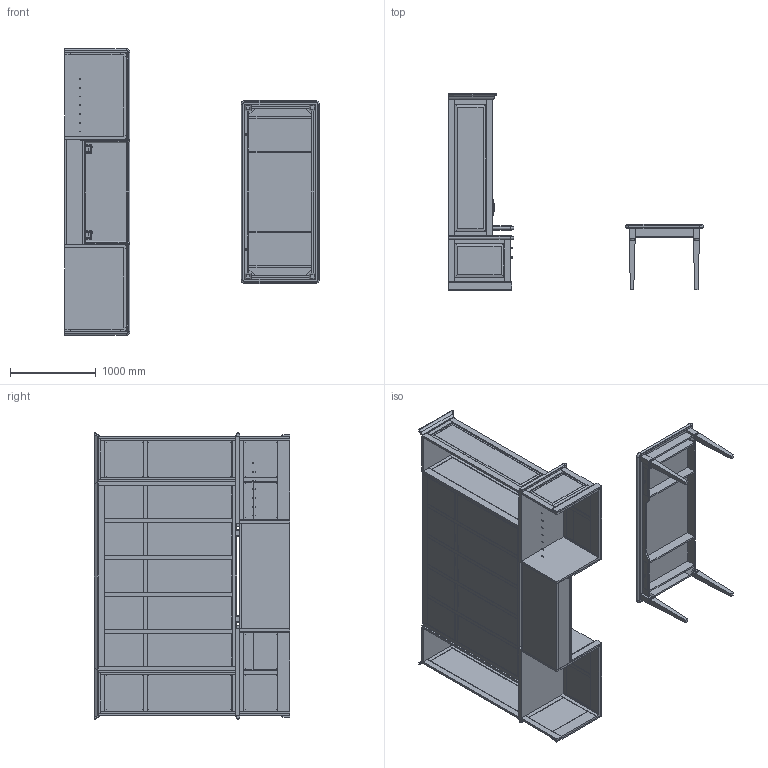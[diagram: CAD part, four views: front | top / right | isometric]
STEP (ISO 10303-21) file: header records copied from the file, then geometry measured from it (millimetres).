
FILE_DESCRIPTION(/* description */ ('','CAx-IF Rec.Pracs.---Representation and Presentation of Product Manufacturing Information (PMI)---4.0---2014-10-13'),/* implementation_level */ '2;1');
FILE_NAME(/* name */ 'PRIVATE OFFICE_CAMBRIDGE 4.stp',/* time_stamp */ '2024-12-08T11:30:36-05:00',/* author */ ('mbowman'),/* organization */ (''),/* preprocessor_version */ 'ST-DEVELOPER v19.2',/* originating_system */ 'Autodesk Inventor 2023',/* authorisation */ '');
FILE_SCHEMA (('AP242_MANAGED_MODEL_BASED_3D_ENGINEERING_MIM_LF { 1 0 10303 442 1 1 4 }'));
Products named in the file (15): PRIVATE OFFICE_CAMBRIDGE 4; CCN^BRIGHTON_36x84 TABLE DESK-PARTS SOLID; CCN^BRIGHTON_36x84 TABLE DESK-PARTS SOLID_1; CCN^BRIGHTON_36x84 TABLE DESK-PULL; CCN^BRIGHTON_L2 WALL UNIT-4 FULL PANEL SOLID ASSEMBLY; CCN^BRIGHTON_L2 WALL UNIT-5 HALF PANEL PARTS SOLID; CCN^BRIGHTON_L2 HAT BRIDGE-LEFT PED PARTS SOLID; CCN^BRIGHTON_L2 HAT BRIDGE-RIGHT PED PARTS SOLID; CCN^BRIGHTON_L2 BRIDGE WW-PARTS SOLID; CCN^BRIGHTON_L2 BRIDGE TOP-PARTS SOLID; dl5nc_without_bracket_STEP; dl5nc_without_bracket_STEP_1; DL5NC_OP; STANDART_MOTORHUS1_DL5; ART DECCO^GLAM-HAFELE 110_34_286
Assembly tree (24 placements, depth 4):
  PRIVATE OFFICE_CAMBRIDGE 4
    CCN^BRIGHTON_36x84 TABLE DESK-PARTS SOLID
      CCN^BRIGHTON_36x84 TABLE DESK-PARTS SOLID_1
      CCN^BRIGHTON_36x84 TABLE DESK-PULL  x2
    CCN^BRIGHTON_L2 WALL UNIT-4 FULL PANEL SOLID ASSEMBLY
      CCN^BRIGHTON_L2 WALL UNIT-5 HALF PANEL PARTS SOLID
      CCN^BRIGHTON_L2 HAT BRIDGE-LEFT PED PARTS SOLID
      CCN^BRIGHTON_L2 HAT BRIDGE-RIGHT PED PARTS SOLID
      CCN^BRIGHTON_L2 BRIDGE WW-PARTS SOLID
      CCN^BRIGHTON_L2 BRIDGE TOP-PARTS SOLID
      dl5nc_without_bracket_STEP
        DL5NC_OP
        STANDART_MOTORHUS1_DL5
      dl5nc_without_bracket_STEP_1
        DL5NC_OP
        STANDART_MOTORHUS1_DL5
      ART DECCO^GLAM-HAFELE 110_34_286  x8
Bounding box: 2971.78 x 2279.65 x 3352.8 mm (x, y, z)
Volume: 555252601.4 mm3; surface area: 49663837.7 mm2
Topology: 136 solids, 176 shells, 3718 faces, 9030 edges, 5680 vertices
Faces by surface type: plane 2406, cylinder 994, torus 192, bspline 76, cone 26, sphere 24
Full cylindrical faces by diameter (mm): 4.6 x4, 5 x20, 5.3 x12, 5.5 x4, 8 x4, 8.202 x40, 21 x2, 25 x2, 48.26 x1
Entity records: 81406 total; most frequent: CARTESIAN_POINT 19095, DIRECTION 12059, ORIENTED_EDGE 11500, EDGE_CURVE 5750, LINE 4315, VECTOR 4315, AXIS2_PLACEMENT_3D 3872, VERTEX_POINT 3616
